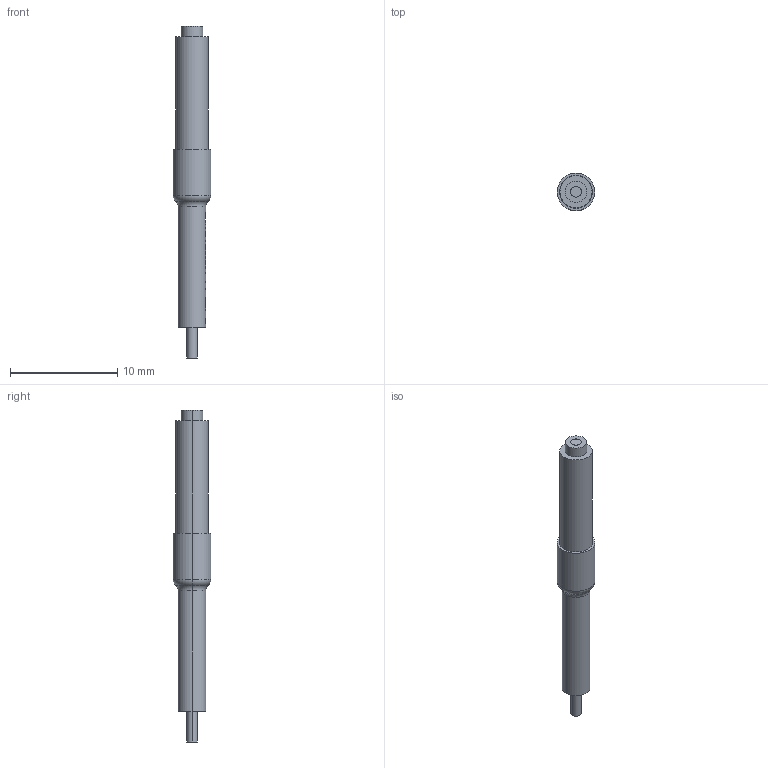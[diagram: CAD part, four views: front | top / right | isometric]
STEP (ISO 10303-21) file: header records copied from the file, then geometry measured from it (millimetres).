
FILE_DESCRIPTION (( 'STEP AP203' ), '1' );
FILE_NAME ('PT-S31-Q-I-S-M-L.STEP', '2017-05-03T02:59:30', ( '' ), ( '' ), 'SwSTEP 2.0', 'SolidWorks 2014', '' );
FILE_SCHEMA (( 'CONFIG_CONTROL_DESIGN' ));
Length unit declared in the file: millimetre
Products named in the file (1): PT-S31-Q-I-S-M-L
Bounding box: 3.52 x 3.52 x 31 mm (x, y, z)
Volume: 152.4 mm3; surface area: 496 mm2
Topology: 2 solids, 2 shells, 228 faces, 639 edges, 424 vertices
Faces by surface type: plane 156, bspline 40, cylinder 28, torus 4
Entity records: 9795 total; most frequent: CARTESIAN_POINT 4097, ORIENTED_EDGE 1278, DIRECTION 1018, EDGE_CURVE 639, VERTEX_POINT 424, LINE 400, VECTOR 400, AXIS2_PLACEMENT_3D 309
